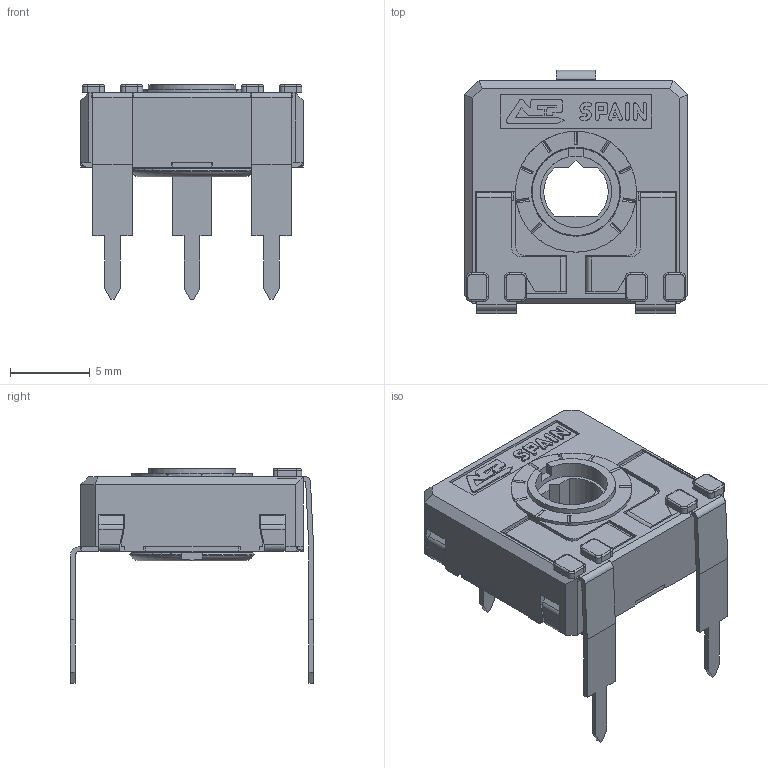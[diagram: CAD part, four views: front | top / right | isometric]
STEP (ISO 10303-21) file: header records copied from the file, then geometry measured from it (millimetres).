
FILE_DESCRIPTION(/* description */ (''),/* implementation_level */ '2;1');
FILE_NAME(/* name */ 'COMCA14KVJ15.stp',/* time_stamp */ '2026-04-01T17:01:47+02:00',/* author */ ('CEM'),/* organization */ (''),/* preprocessor_version */ 'ST-DEVELOPER v20.1',/* originating_system */ 'Autodesk Inventor 2026',/* authorisation */ '');
FILE_SCHEMA (('AUTOMOTIVE_DESIGN { 1 0 10303 214 3 1 1 }'));
Length unit declared in the file: millimetre
Products named in the file (1): CARCASA CA14 PGA
Bounding box: 14 x 15.3 x 13.5 mm (x, y, z)
Volume: 541.1 mm3; surface area: 1530.5 mm2
Topology: 1 solids, 1 shells, 679 faces, 1914 edges, 1231 vertices
Faces by surface type: plane 503, cylinder 139, torus 23, bspline 8, cone 6
Full cylindrical faces by diameter (mm): 4.5 x1, 5.5 x1, 5.6 x1, 5.752 x1, 6.8 x1, 7.6 x1
Entity records: 22145 total; most frequent: CARTESIAN_POINT 4122, ORIENTED_EDGE 3828, DIRECTION 3570, EDGE_CURVE 1914, LINE 1512, VECTOR 1512, VERTEX_POINT 1231, AXIS2_PLACEMENT_3D 1029
